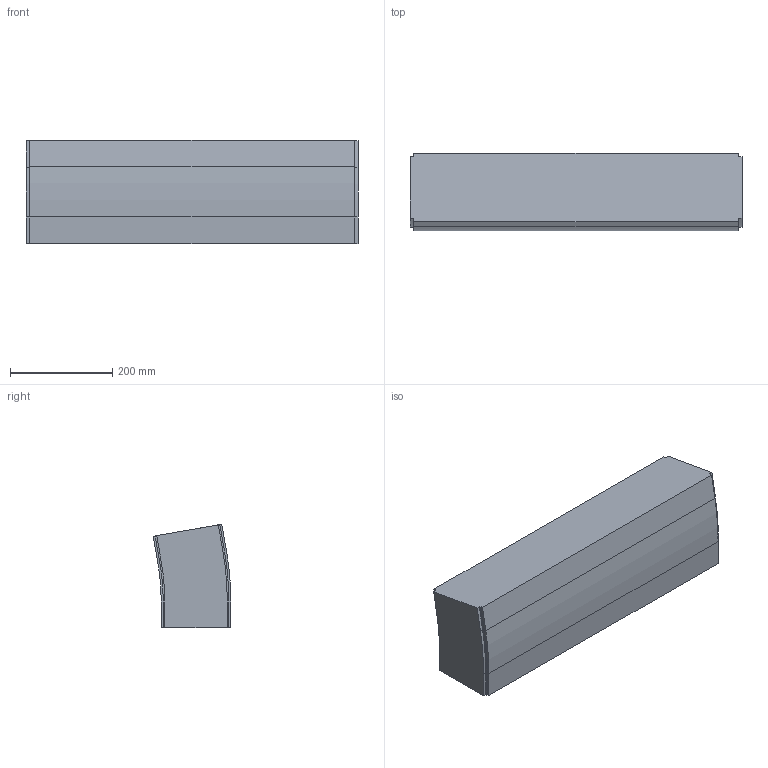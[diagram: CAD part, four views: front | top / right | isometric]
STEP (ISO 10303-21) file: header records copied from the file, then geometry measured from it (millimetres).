
FILE_DESCRIPTION (( 'STEP AP214' ), '1' );
FILE_NAME ('FS-MTC2-150-INOX verticaalbocht.650 10°.STEP', '2017-02-08T12:42:06', ( '' ), ( '' ), 'SwSTEP 2.0', 'SolidWorks 2016', '' );
FILE_SCHEMA (( 'AUTOMOTIVE_DESIGN' ));
Length unit declared in the file: millimetre
Products named in the file (1): FS-MTC2-150-INOX verticaalbocht.650 10°
Bounding box: 650.5 x 152.18 x 202.88 mm (x, y, z)
Volume: 17034279.9 mm3; surface area: 479821.9 mm2
Topology: 1 solids, 1 shells, 42 faces, 120 edges, 80 vertices
Faces by surface type: plane 32, cylinder 10
Entity records: 1398 total; most frequent: CARTESIAN_POINT 243, ORIENTED_EDGE 240, DIRECTION 226, EDGE_CURVE 120, LINE 100, VECTOR 100, VERTEX_POINT 80, AXIS2_PLACEMENT_3D 63
